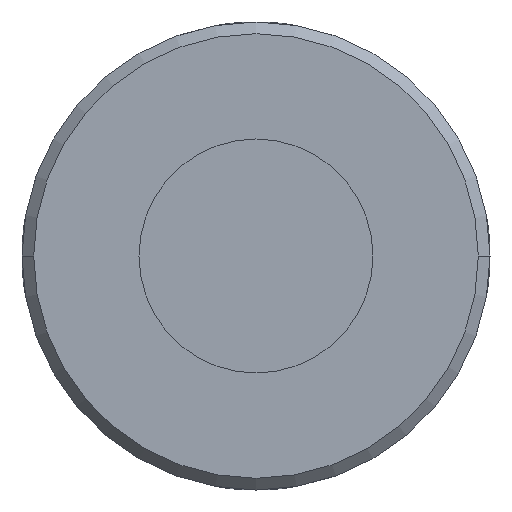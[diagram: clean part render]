
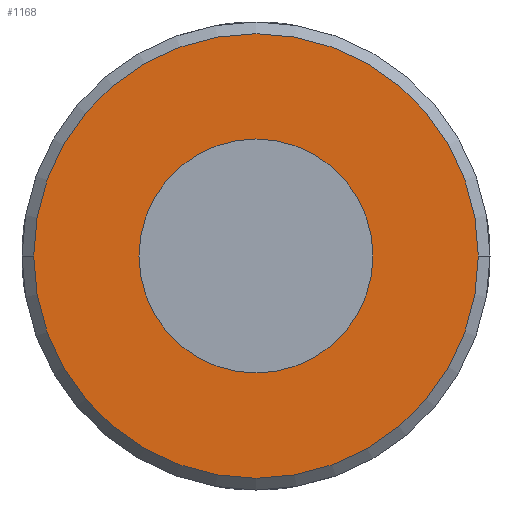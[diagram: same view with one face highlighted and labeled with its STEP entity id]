
A CAD part, left-side view. The second image highlights one B-rep face of the part: STEP entity #1168.
In plain terms, the highlighted planar face has unit normal (-1, 0, 0).
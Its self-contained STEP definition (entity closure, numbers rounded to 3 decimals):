
#615=CARTESIAN_POINT('',(0.,0.,0.));
#616=DIRECTION('',(1.,0.,0.));
#617=DIRECTION('',(0.,1.,0.));
#618=AXIS2_PLACEMENT_3D('',#615,#616,#617);
#623=CARTESIAN_POINT('',(0.,0.,0.));
#624=DIRECTION('',(-1.,0.,0.));
#625=DIRECTION('',(0.,1.,0.));
#626=AXIS2_PLACEMENT_3D('',#623,#624,#625);
#645=CARTESIAN_POINT('',(0.,0.,0.));
#646=DIRECTION('',(-1.,0.,0.));
#647=DIRECTION('',(0.,1.,0.));
#648=AXIS2_PLACEMENT_3D('',#645,#646,#647);
#653=CARTESIAN_POINT('',(0.,0.,0.));
#654=DIRECTION('',(1.,0.,0.));
#655=DIRECTION('',(0.,1.,0.));
#656=AXIS2_PLACEMENT_3D('',#653,#654,#655);
#739=CARTESIAN_POINT('',(0.,9.5,0.));
#740=VERTEX_POINT('',#739);
#741=CARTESIAN_POINT('',(0.,5.,0.));
#743=VERTEX_POINT('',#741);
#761=CARTESIAN_POINT('',(0.,-9.5,0.));
#762=VERTEX_POINT('',#761);
#763=CARTESIAN_POINT('',(0.,-5.,0.));
#765=VERTEX_POINT('',#763);
#1153=CARTESIAN_POINT('',(0.,0.,0.));
#1154=DIRECTION('',(1.,0.,0.));
#1155=DIRECTION('',(0.,-1.,0.));
#1156=AXIS2_PLACEMENT_3D('',#1153,#1154,#1155);
#1157=PLANE('',#1156);
#1158=ORIENTED_EDGE('',*,*,#1135,.T.);
#1159=ORIENTED_EDGE('',*,*,#1146,.F.);
#1160=EDGE_LOOP('',(#1158,#1159));
#1161=FACE_OUTER_BOUND('',#1160,.F.);
#1163=ORIENTED_EDGE('',*,*,#1162,.T.);
#1165=ORIENTED_EDGE('',*,*,#1164,.F.);
#1166=EDGE_LOOP('',(#1163,#1165));
#1167=FACE_BOUND('',#1166,.F.);
#619=CIRCLE('',#618,9.5);
#627=CIRCLE('',#626,9.5);
#649=CIRCLE('',#648,5.);
#657=CIRCLE('',#656,5.);
#1135=EDGE_CURVE('',#740,#762,#619,.T.);
#1146=EDGE_CURVE('',#740,#762,#627,.T.);
#1162=EDGE_CURVE('',#743,#765,#649,.T.);
#1164=EDGE_CURVE('',#743,#765,#657,.T.);
#1168=ADVANCED_FACE('',(#1161,#1167),#1157,.F.);
